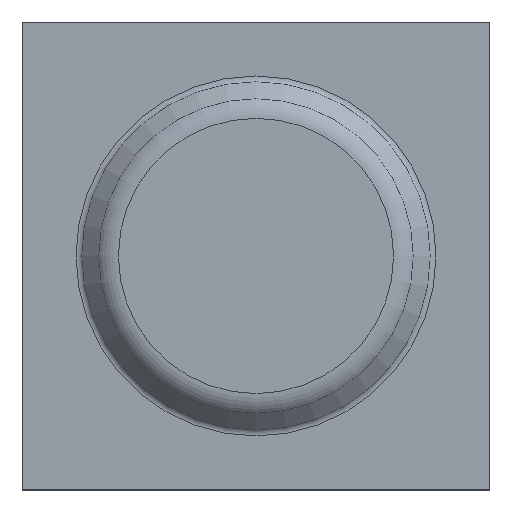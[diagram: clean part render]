
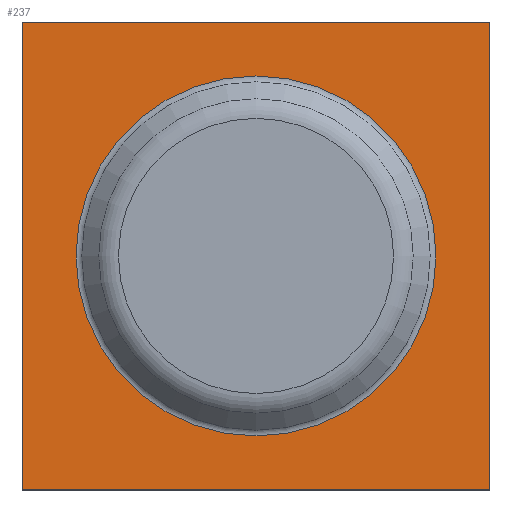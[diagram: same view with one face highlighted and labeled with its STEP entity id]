
A CAD part, top view. The second image highlights one B-rep face of the part: STEP entity #237.
In plain terms, the highlighted planar face has unit normal (0, 0, 1).
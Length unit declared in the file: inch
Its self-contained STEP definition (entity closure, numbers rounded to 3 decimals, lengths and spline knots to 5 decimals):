
#170=CARTESIAN_POINT('',(-0.97692,6.408,-1.425));
#171=VERTEX_POINT('',#170);
#179=CARTESIAN_POINT('',(-0.65,6.408,-1.425));
#180=DIRECTION('',(0.,0.,1.));
#181=DIRECTION('',(1.,0.,0.));
#182=AXIS2_PLACEMENT_3D('',#179,#180,#181);
#183=CIRCLE('',#182,0.32692);
#184=EDGE_CURVE('',#171,#171,#183,.T.);
#195=CARTESIAN_POINT('',(-1.075,6.833,-1.425));
#196=VERTEX_POINT('',#195);
#197=CARTESIAN_POINT('',(-1.075,5.983,-1.425));
#198=VERTEX_POINT('',#197);
#199=CARTESIAN_POINT('',(-1.075,647.48676,-1.425));
#200=DIRECTION('',(0.,-1.,0.));
#201=VECTOR('',#200,1.);
#202=LINE('',#199,#201);
#203=EDGE_CURVE('',#196,#198,#202,.T.);
#204=ORIENTED_EDGE('',*,*,#203,.T.);
#205=CARTESIAN_POINT('',(-0.225,5.983,-1.425));
#206=VERTEX_POINT('',#205);
#207=CARTESIAN_POINT('',(1356.7861,5.983,-1.425));
#208=DIRECTION('',(1.,0.,0.));
#209=VECTOR('',#208,1.);
#210=LINE('',#207,#209);
#211=EDGE_CURVE('',#198,#206,#210,.T.);
#212=ORIENTED_EDGE('',*,*,#211,.T.);
#213=CARTESIAN_POINT('',(-0.225,6.833,-1.425));
#214=VERTEX_POINT('',#213);
#215=CARTESIAN_POINT('',(-0.225,616.77628,-1.425));
#216=DIRECTION('',(0.,1.,0.));
#217=VECTOR('',#216,1.);
#218=LINE('',#215,#217);
#219=EDGE_CURVE('',#206,#214,#218,.T.);
#220=ORIENTED_EDGE('',*,*,#219,.T.);
#221=CARTESIAN_POINT('',(1386.59978,6.833,-1.425));
#222=DIRECTION('',(-1.,0.,0.));
#223=VECTOR('',#222,1.);
#224=LINE('',#221,#223);
#225=EDGE_CURVE('',#214,#196,#224,.T.);
#226=ORIENTED_EDGE('',*,*,#225,.T.);
#227=EDGE_LOOP('',(#204,#212,#220,#226));
#228=FACE_OUTER_BOUND('',#227,.T.);
#229=ORIENTED_EDGE('',*,*,#184,.F.);
#230=EDGE_LOOP('',(#229));
#231=FACE_BOUND('',#230,.T.);
#232=CARTESIAN_POINT('',(-0.4,-1.475,-1.425));
#233=DIRECTION('',(0.,0.,-1.));
#234=DIRECTION('',(-1.,0.,0.));
#235=AXIS2_PLACEMENT_3D('',#232,#233,#234);
#236=PLANE('',#235);
#237=ADVANCED_FACE('',(#228,#231),#236,.F.);
